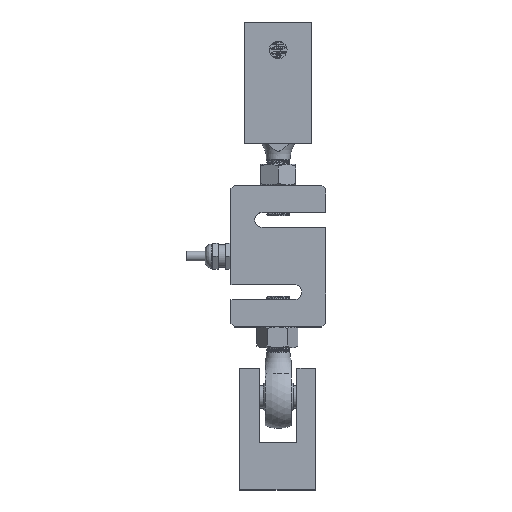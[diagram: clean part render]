
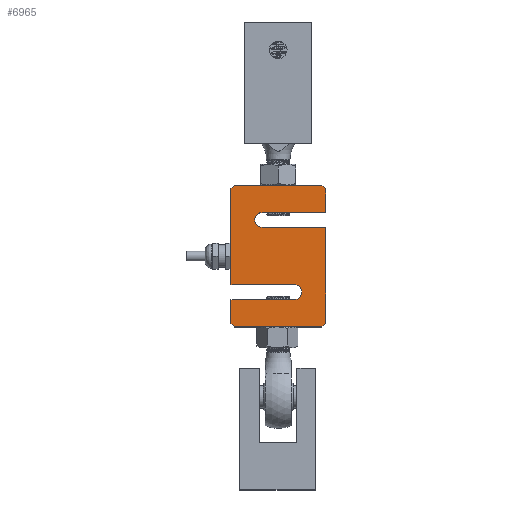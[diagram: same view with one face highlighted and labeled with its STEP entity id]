
A CAD part, top view. The second image highlights one B-rep face of the part: STEP entity #6965.
In plain terms, the highlighted planar face has unit normal (0, 0, 1) as drawn and (0, 1, 0) by its records, which use the part's own axes.
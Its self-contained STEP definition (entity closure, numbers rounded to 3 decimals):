
#795=PLANE('',#7478);
#961=FACE_OUTER_BOUND('',#1372,.T.);
#1372=EDGE_LOOP('',(#4939,#4940,#4941,#4942,#4943,#4944,#4945,#4946,#4947,
#4948,#4949,#4950,#4951,#4952,#4953,#4954));
#1785=LINE('',#13956,#2153);
#1790=LINE('',#15737,#2158);
#1791=LINE('',#15741,#2159);
#1805=LINE('',#15772,#2173);
#1808=LINE('',#15777,#2176);
#1809=LINE('',#15780,#2177);
#1811=LINE('',#15784,#2179);
#1814=LINE('',#15789,#2182);
#1817=LINE('',#15795,#2185);
#1819=LINE('',#15799,#2187);
#1822=LINE('',#15806,#2190);
#1823=LINE('',#15809,#2191);
#1825=LINE('',#15813,#2193);
#1828=LINE('',#15820,#2196);
#2153=VECTOR('',#8191,10.);
#2158=VECTOR('',#8206,10.);
#2159=VECTOR('',#8211,10.);
#2173=VECTOR('',#8233,10.);
#2176=VECTOR('',#8238,10.);
#2177=VECTOR('',#8241,10.);
#2179=VECTOR('',#8245,10.);
#2182=VECTOR('',#8250,10.);
#2185=VECTOR('',#8257,10.);
#2187=VECTOR('',#8261,10.);
#2190=VECTOR('',#8270,10.);
#2191=VECTOR('',#8273,10.);
#2193=VECTOR('',#8277,10.);
#2196=VECTOR('',#8286,10.);
#2456=CIRCLE('',#7471,4.);
#2457=CIRCLE('',#7476,4.);
#2726=VERTEX_POINT('',#13950);
#2728=VERTEX_POINT('',#13954);
#2734=VERTEX_POINT('',#15731);
#2736=VERTEX_POINT('',#15735);
#2737=VERTEX_POINT('',#15740);
#2750=VERTEX_POINT('',#15771);
#2751=VERTEX_POINT('',#15775);
#2752=VERTEX_POINT('',#15779);
#2753=VERTEX_POINT('',#15783);
#2754=VERTEX_POINT('',#15787);
#2755=VERTEX_POINT('',#15794);
#2756=VERTEX_POINT('',#15798);
#2757=VERTEX_POINT('',#15802);
#2758=VERTEX_POINT('',#15808);
#2759=VERTEX_POINT('',#15812);
#2760=VERTEX_POINT('',#15816);
#3517=EDGE_CURVE('',#2726,#2728,#1785,.T.);
#3534=EDGE_CURVE('',#2734,#2736,#1790,.T.);
#3535=EDGE_CURVE('',#2734,#2737,#1791,.T.);
#3551=EDGE_CURVE('',#2750,#2736,#1805,.T.);
#3554=EDGE_CURVE('',#2750,#2751,#1808,.T.);
#3555=EDGE_CURVE('',#2726,#2752,#1809,.T.);
#3557=EDGE_CURVE('',#2753,#2728,#1811,.T.);
#3560=EDGE_CURVE('',#2753,#2754,#1814,.T.);
#3563=EDGE_CURVE('',#2755,#2752,#1817,.T.);
#3565=EDGE_CURVE('',#2756,#2755,#1819,.T.);
#3567=EDGE_CURVE('',#2757,#2756,#2456,.T.);
#3569=EDGE_CURVE('',#2751,#2757,#1822,.T.);
#3570=EDGE_CURVE('',#2758,#2737,#1823,.T.);
#3572=EDGE_CURVE('',#2759,#2758,#1825,.T.);
#3574=EDGE_CURVE('',#2760,#2759,#2457,.T.);
#3576=EDGE_CURVE('',#2754,#2760,#1828,.T.);
#4939=ORIENTED_EDGE('',*,*,#3535,.F.);
#4940=ORIENTED_EDGE('',*,*,#3534,.T.);
#4941=ORIENTED_EDGE('',*,*,#3551,.F.);
#4942=ORIENTED_EDGE('',*,*,#3554,.T.);
#4943=ORIENTED_EDGE('',*,*,#3569,.T.);
#4944=ORIENTED_EDGE('',*,*,#3567,.T.);
#4945=ORIENTED_EDGE('',*,*,#3565,.T.);
#4946=ORIENTED_EDGE('',*,*,#3563,.T.);
#4947=ORIENTED_EDGE('',*,*,#3555,.F.);
#4948=ORIENTED_EDGE('',*,*,#3517,.T.);
#4949=ORIENTED_EDGE('',*,*,#3557,.F.);
#4950=ORIENTED_EDGE('',*,*,#3560,.T.);
#4951=ORIENTED_EDGE('',*,*,#3576,.T.);
#4952=ORIENTED_EDGE('',*,*,#3574,.T.);
#4953=ORIENTED_EDGE('',*,*,#3572,.T.);
#4954=ORIENTED_EDGE('',*,*,#3570,.T.);
#6965=ADVANCED_FACE('',(#961),#795,.T.);
#7471=AXIS2_PLACEMENT_3D('',#15803,#8265,#8266);
#7476=AXIS2_PLACEMENT_3D('',#15817,#8281,#8282);
#7478=AXIS2_PLACEMENT_3D('',#15821,#8287,#8288);
#8191=DIRECTION('',(-1.,0.,0.));
#8206=DIRECTION('',(1.,0.,0.));
#8211=DIRECTION('',(-0.707,0.,-0.707));
#8233=DIRECTION('',(-0.707,0.,0.707));
#8238=DIRECTION('',(0.,0.,-1.));
#8241=DIRECTION('',(0.707,0.,0.707));
#8245=DIRECTION('',(0.707,0.,-0.707));
#8250=DIRECTION('',(0.,0.,1.));
#8257=DIRECTION('',(0.,0.,-1.));
#8261=DIRECTION('',(1.,0.,0.));
#8265=DIRECTION('center_axis',(0.,-1.,0.));
#8266=DIRECTION('ref_axis',(0.,0.,-1.));
#8270=DIRECTION('',(-1.,0.,0.));
#8273=DIRECTION('',(0.,0.,1.));
#8277=DIRECTION('',(-1.,0.,0.));
#8281=DIRECTION('center_axis',(0.,-1.,0.));
#8282=DIRECTION('ref_axis',(0.,0.,1.));
#8286=DIRECTION('',(1.,0.,0.));
#8287=DIRECTION('center_axis',(0.,1.,0.));
#8288=DIRECTION('ref_axis',(1.,0.,0.));
#13950=CARTESIAN_POINT('',(23.4,14.097,-38.1));
#13954=CARTESIAN_POINT('',(-23.4,14.097,-38.1));
#13956=CARTESIAN_POINT('',(-25.4,14.097,-38.1));
#15731=CARTESIAN_POINT('',(-23.4,14.097,38.1));
#15735=CARTESIAN_POINT('',(23.4,14.097,38.1));
#15737=CARTESIAN_POINT('',(25.4,14.097,38.1));
#15740=CARTESIAN_POINT('',(-25.4,14.097,36.1));
#15741=CARTESIAN_POINT('',(-27.575,14.097,33.925));
#15771=CARTESIAN_POINT('',(25.4,14.097,36.1));
#15772=CARTESIAN_POINT('',(27.575,14.097,33.925));
#15775=CARTESIAN_POINT('',(25.4,14.097,-15.4));
#15777=CARTESIAN_POINT('',(25.4,14.097,-38.1));
#15779=CARTESIAN_POINT('',(25.4,14.097,-36.1));
#15780=CARTESIAN_POINT('',(27.575,14.097,-33.925));
#15783=CARTESIAN_POINT('',(-25.4,14.097,-36.1));
#15784=CARTESIAN_POINT('',(-27.575,14.097,-33.925));
#15787=CARTESIAN_POINT('',(-25.4,14.097,15.4));
#15789=CARTESIAN_POINT('',(-25.4,14.097,38.1));
#15794=CARTESIAN_POINT('',(25.4,14.097,-23.4));
#15795=CARTESIAN_POINT('',(25.4,14.097,-38.1));
#15798=CARTESIAN_POINT('',(-8.7,14.097,-23.4));
#15799=CARTESIAN_POINT('',(25.4,14.097,-23.4));
#15802=CARTESIAN_POINT('',(-8.7,14.097,-15.4));
#15803=CARTESIAN_POINT('Origin',(-8.7,14.097,-19.4));
#15806=CARTESIAN_POINT('',(25.4,14.097,-15.4));
#15808=CARTESIAN_POINT('',(-25.4,14.097,23.4));
#15809=CARTESIAN_POINT('',(-25.4,14.097,38.1));
#15812=CARTESIAN_POINT('',(8.7,14.097,23.4));
#15813=CARTESIAN_POINT('',(-25.4,14.097,23.4));
#15816=CARTESIAN_POINT('',(8.7,14.097,15.4));
#15817=CARTESIAN_POINT('Origin',(8.7,14.097,19.4));
#15820=CARTESIAN_POINT('',(-25.4,14.097,15.4));
#15821=CARTESIAN_POINT('Origin',(0.,14.097,0.));
